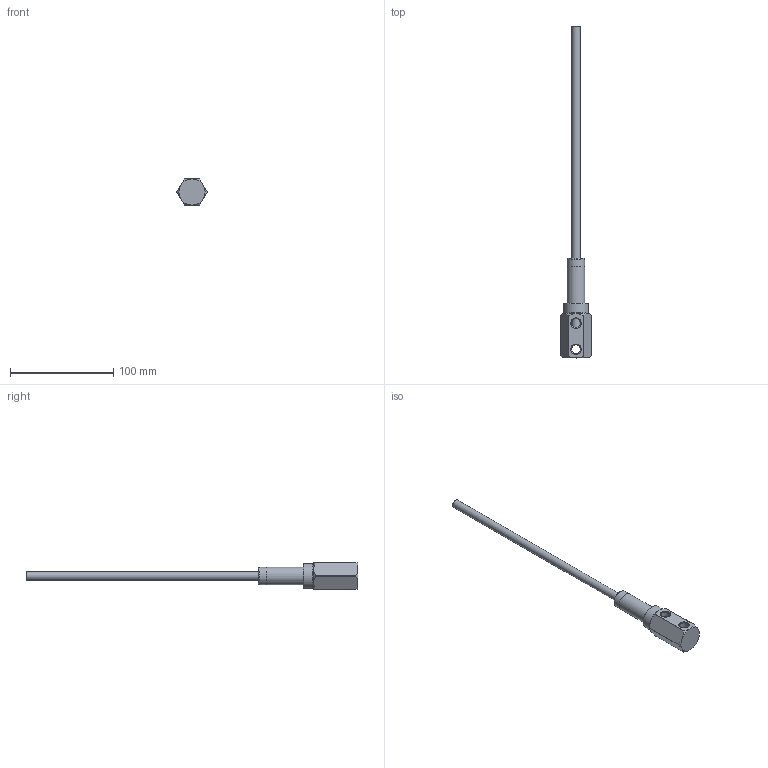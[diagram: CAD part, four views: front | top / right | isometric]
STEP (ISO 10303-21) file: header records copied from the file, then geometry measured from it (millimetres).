
FILE_DESCRIPTION(/* description */ (''),/* implementation_level */ '2;1');
FILE_NAME(/* name */ 'C:/Users/drich/Desktop/381N-HFT v1.step',/* time_stamp */ '2020-01-15T19:38:01-06:00',/* author */ (''),/* organization */ (''),/* preprocessor_version */ 'ST-DEVELOPER v18',/* originating_system */ 'Autodesk Translation Framework v8.12.0.6',/* authorisation */ '');
FILE_SCHEMA (('AUTOMOTIVE_DESIGN { 1 0 10303 214 3 1 1 }'));
Length unit declared in the file: inch
Products named in the file (4): 381N-HFT; 381H; SSPN38-2; HF312T-12
Assembly tree (3 placements, depth 2):
  381N-HFT
    381H
    SSPN38-2
    HF312T-12
Bounding box: 29.26 x 321.39 x 25.4 mm (x, y, z)
Volume: 28492.6 mm3; surface area: 27202.8 mm2
Topology: 3 solids, 3 shells, 54 faces, 146 edges, 102 vertices
Faces by surface type: cylinder 19, plane 16, cone 14, torus 5
Full cylindrical faces by diameter (mm): 7.315 x1, 7.925 x1, 8.509 x1, 8.707 x2, 9.406 x1, 9.576 x1, 12.522 x1, 15.173 x1, 17.094 x2, 17.145 x1, 23.8 x1
Entity records: 2003 total; most frequent: CARTESIAN_POINT 468, DIRECTION 325, ORIENTED_EDGE 292, EDGE_CURVE 146, AXIS2_PLACEMENT_3D 145, VERTEX_POINT 102, CIRCLE 84, EDGE_LOOP 68
